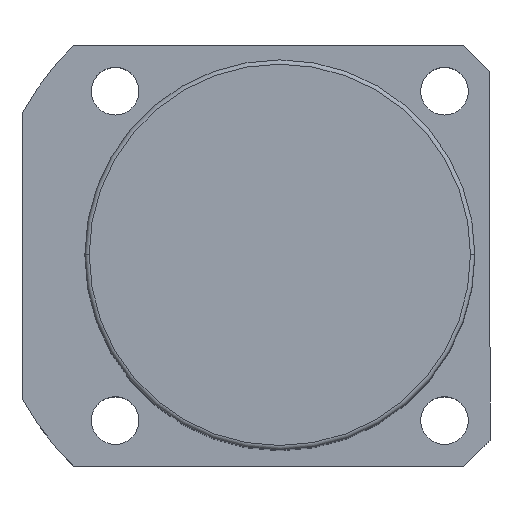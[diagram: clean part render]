
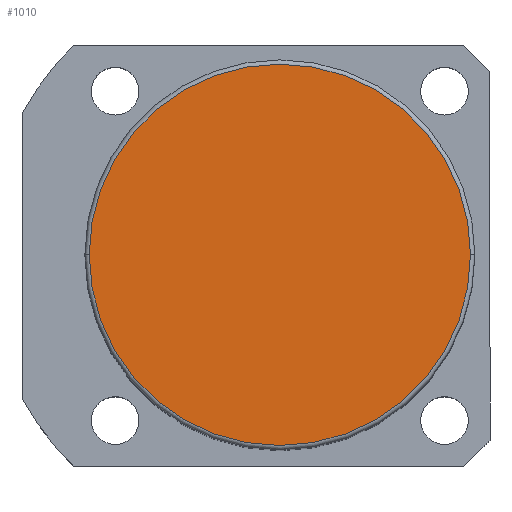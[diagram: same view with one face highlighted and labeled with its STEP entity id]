
A CAD part, top view. The second image highlights one B-rep face of the part: STEP entity #1010.
In plain terms, the highlighted planar face has unit normal (0, 0, 1).
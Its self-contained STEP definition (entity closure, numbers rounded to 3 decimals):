
#75 = DIRECTION ( 'NONE',  ( 1., 0., 0. ) ) ;
#197 = DIRECTION ( 'NONE',  ( 1., 0., 0. ) ) ;
#213 = VERTEX_POINT ( 'NONE', #790 ) ;
#214 = VERTEX_POINT ( 'NONE', #454 ) ;
#269 = EDGE_CURVE ( 'NONE', #213, #214, #1828, .T. ) ;
#310 = AXIS2_PLACEMENT_3D ( 'NONE', #401, #1222, #197 ) ;
#401 = CARTESIAN_POINT ( 'NONE',  ( 0., 0., 151.5 ) ) ;
#454 = CARTESIAN_POINT ( 'NONE',  ( 44., 0., 151.5 ) ) ;
#462 = DIRECTION ( 'NONE',  ( 0., 0., 1. ) ) ;
#567 = CIRCLE ( 'NONE', #594, 44. ) ;
#594 = AXIS2_PLACEMENT_3D ( 'NONE', #1219, #683, #908 ) ;
#683 = DIRECTION ( 'NONE',  ( 0., 0., 1. ) ) ;
#790 = CARTESIAN_POINT ( 'NONE',  ( -44., 0., 151.5 ) ) ;
#904 = EDGE_CURVE ( 'NONE', #214, #213, #567, .T. ) ;
#908 = DIRECTION ( 'NONE',  ( 1., 0., 0. ) ) ;
#973 = CARTESIAN_POINT ( 'NONE',  ( 0., 0., 151.5 ) ) ;
#1010 = ADVANCED_FACE ( 'NONE', ( #1039 ), #1082, .T. ) ;
#1039 = FACE_OUTER_BOUND ( 'NONE', #1662, .T. ) ;
#1082 = PLANE ( 'NONE',  #310 ) ;
#1219 = CARTESIAN_POINT ( 'NONE',  ( 0., 0., 151.5 ) ) ;
#1222 = DIRECTION ( 'NONE',  ( 0., 0., 1. ) ) ;
#1501 = ORIENTED_EDGE ( 'NONE', *, *, #269, .T. ) ;
#1546 = ORIENTED_EDGE ( 'NONE', *, *, #904, .T. ) ;
#1613 = AXIS2_PLACEMENT_3D ( 'NONE', #973, #462, #75 ) ;
#1662 = EDGE_LOOP ( 'NONE', ( #1546, #1501 ) ) ;
#1828 = CIRCLE ( 'NONE', #1613, 44. ) ;
